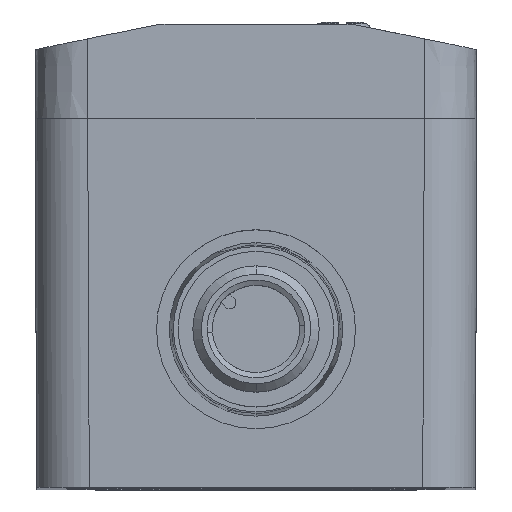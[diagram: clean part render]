
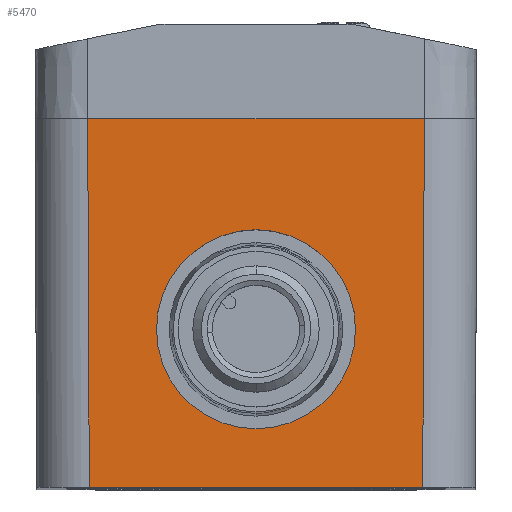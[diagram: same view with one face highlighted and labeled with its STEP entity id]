
A CAD part, top view. The second image highlights one B-rep face of the part: STEP entity #5470.
In plain terms, the highlighted planar face has unit normal (0, 0, 1).
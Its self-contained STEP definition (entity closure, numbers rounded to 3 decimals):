
#781=CARTESIAN_POINT('',(16.,35.,161.6));
#810=DIRECTION('',(1.,0.,0.));
#811=VECTOR('',#810,32.);
#812=CARTESIAN_POINT('',(-16.,35.,161.6));
#813=LINE('',#812,#811);
#817=DIRECTION('',(-0.004,-1.,0.));
#818=VECTOR('',#817,35.);
#819=CARTESIAN_POINT('',(16.,35.,161.6));
#820=LINE('',#819,#818);
#824=DIRECTION('',(-1.,0.,0.));
#825=VECTOR('',#824,31.7);
#826=CARTESIAN_POINT('',(15.85,0.,161.6));
#827=LINE('',#826,#825);
#831=DIRECTION('',(-0.004,1.,0.));
#832=VECTOR('',#831,35.);
#833=CARTESIAN_POINT('',(-15.85,0.,161.6));
#834=LINE('',#833,#832);
#838=CARTESIAN_POINT('',(0.,15.,161.6));
#839=DIRECTION('',(0.,0.,1.));
#840=DIRECTION('',(0.,-1.,0.));
#841=AXIS2_PLACEMENT_3D('',#838,#839,#840);
#846=CARTESIAN_POINT('',(0.,15.,161.6));
#847=DIRECTION('',(0.,0.,1.));
#848=DIRECTION('',(0.,1.,0.));
#849=AXIS2_PLACEMENT_3D('',#846,#847,#848);
#854=CARTESIAN_POINT('',(-15.85,0.,161.6));
#4443=VERTEX_POINT('',#781);
#4444=CARTESIAN_POINT('',(-16.,35.,161.6));
#4445=VERTEX_POINT('',#4444);
#4494=VERTEX_POINT('',#854);
#4495=CARTESIAN_POINT('',(15.85,0.,161.6));
#4496=VERTEX_POINT('',#4495);
#4951=CARTESIAN_POINT('',(0.,5.54,161.6));
#4952=CARTESIAN_POINT('',(0.,24.46,161.6));
#4953=VERTEX_POINT('',#4951);
#4954=VERTEX_POINT('',#4952);
#5452=CARTESIAN_POINT('',(0.,0.,161.6));
#5453=DIRECTION('',(0.,0.,1.));
#5454=DIRECTION('',(1.,0.,0.));
#5455=AXIS2_PLACEMENT_3D('',#5452,#5453,#5454);
#5456=PLANE('',#5455);
#5457=ORIENTED_EDGE('',*,*,#5148,.T.);
#5458=ORIENTED_EDGE('',*,*,#5444,.T.);
#5459=ORIENTED_EDGE('',*,*,#5236,.T.);
#5461=ORIENTED_EDGE('',*,*,#5460,.T.);
#5462=EDGE_LOOP('',(#5457,#5458,#5459,#5461));
#5463=FACE_OUTER_BOUND('',#5462,.F.);
#5465=ORIENTED_EDGE('',*,*,#5464,.T.);
#5467=ORIENTED_EDGE('',*,*,#5466,.T.);
#5468=EDGE_LOOP('',(#5465,#5467));
#5469=FACE_BOUND('',#5468,.F.);
#842=CIRCLE('',#841,9.46);
#850=CIRCLE('',#849,9.46);
#5148=EDGE_CURVE('',#4445,#4443,#813,.T.);
#5236=EDGE_CURVE('',#4496,#4494,#827,.T.);
#5444=EDGE_CURVE('',#4443,#4496,#820,.T.);
#5460=EDGE_CURVE('',#4494,#4445,#834,.T.);
#5464=EDGE_CURVE('',#4953,#4954,#842,.T.);
#5466=EDGE_CURVE('',#4954,#4953,#850,.T.);
#5470=ADVANCED_FACE('',(#5463,#5469),#5456,.T.);
